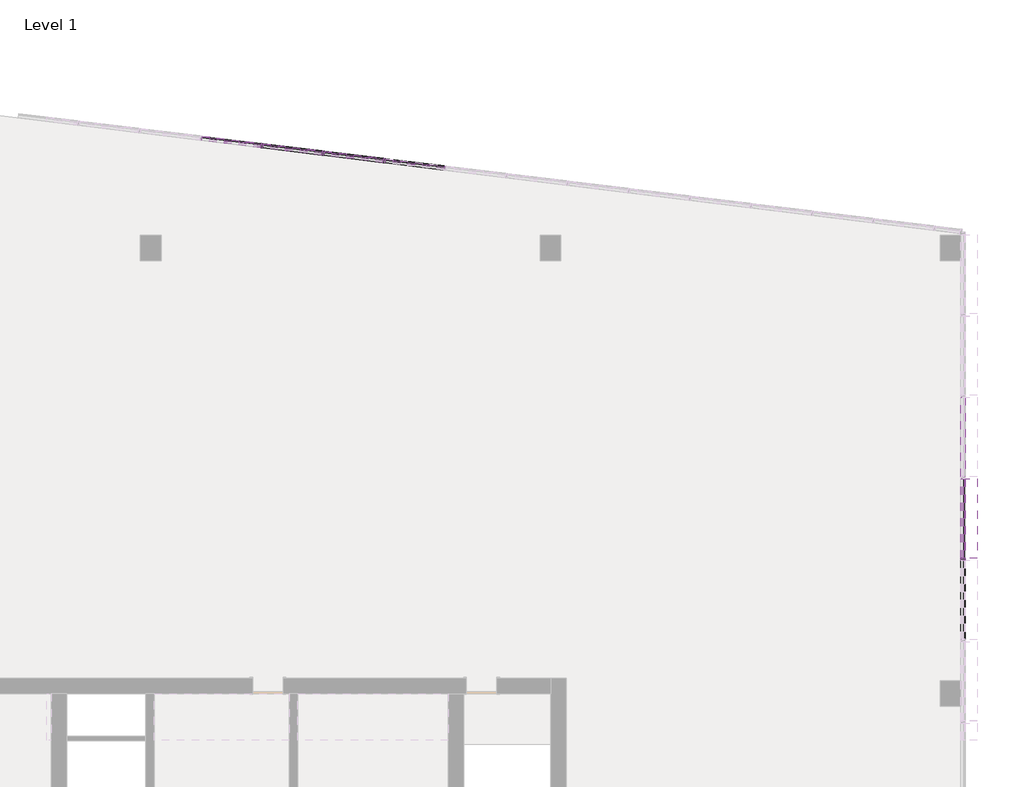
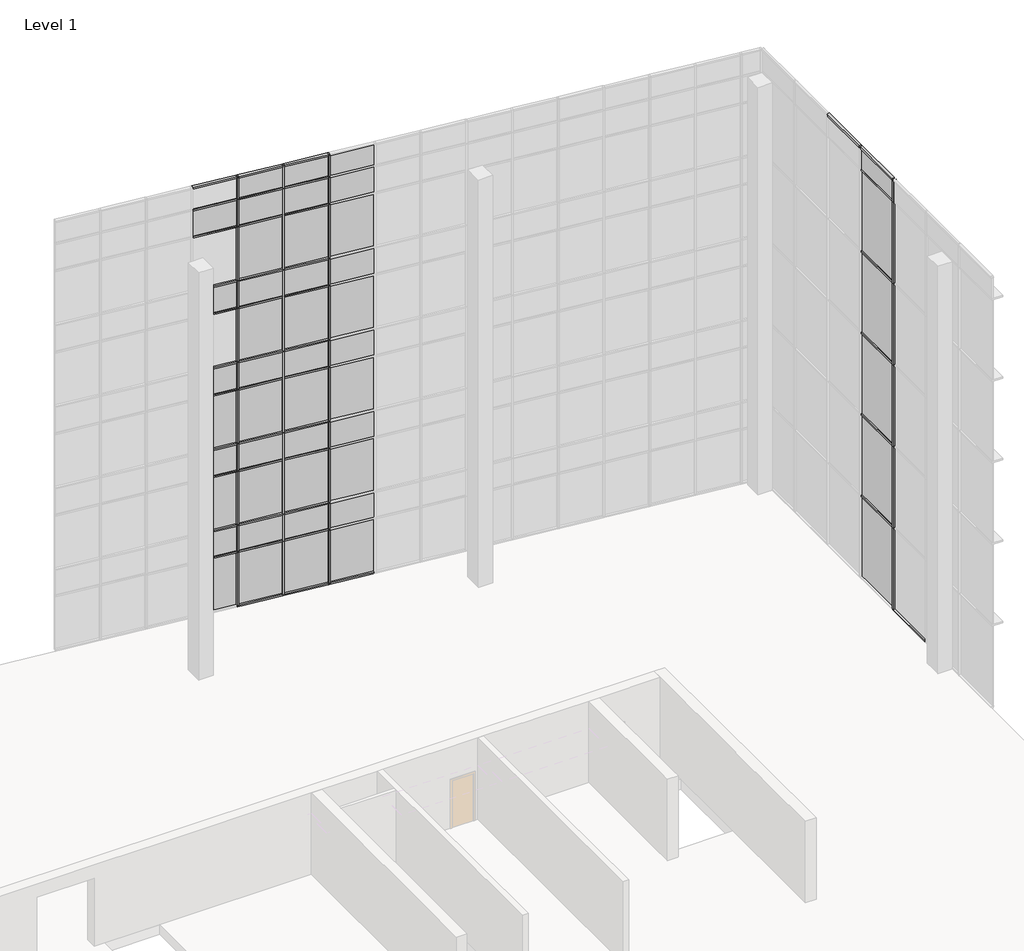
# One storey, part 19 of 23: 71 members, 47 plates.
"""IFC4 building model written with IfcOpenShell, lengths in millimetres."""

from ifc_helpers import new_model, si_unit, origin, place, context, project, spatial, transform, mapped, element, save
from components import member_148ee976, member_07e69ef0, member_2b49869a, member_f92b8aa2, member_810865a4, member_f0fea5a5, member_6d5c3e5e, member_90793d7c, member_64b167af, member_9764dd38, system_panel_glazed_14c75400, system_panel_glazed_b79bd3cf, system_panel_solid_5dfe6f83, system_panel_solid_e25e2004, system_panel_solid_b7551183, system_panel_solid_52d708f1

model = new_model("IFC4")

# Units and contexts
model_context = context("Model", 3, world=origin())
ifc_project = project(units=[si_unit("LENGTHUNIT", "METRE", prefix="MILLI")], contexts=[model_context])

# Site, building, storey
site = spatial("IfcSite", under=ifc_project)
building = spatial("IfcBuilding", under=site)
storey = spatial("IfcBuildingStorey", under=building, Name="Level 1", Elevation=0.0)

# Members
placement = place(None, origin())
member_shape = member_148ee976(model_context)
element("IfcMember", 1, ObjectType="Quad Corner Mullion : 5\" x 5\" Quad Corner", at=placement, inside=storey, context=model_context, shape_type="MappedRepresentation", body=[
    mapped(member_shape, transform((15106.8054088, 323.0400525, 19304.0), x_axis=(0.0, 0.0, 1.0), y_axis=(-1.0, 0.0, 0.0), z_axis=(0.0, -1.0, 0.0))),
])
element("IfcMember", 2, ObjectType="Quad Corner Mullion : 5\" x 5\" Quad Corner", at=placement, inside=storey, context=model_context, shape_type="MappedRepresentation", body=[
    mapped(member_shape, transform((15106.8054088, 2740.2922028, 19304.0), x_axis=(0.0, 0.0, 1.0), y_axis=(-1.0, 0.0, 0.0), z_axis=(0.0, -1.0, 0.0))),
])
element("IfcMember", 3, ObjectType="Quad Corner Mullion : 5\" x 5\" Quad Corner", at=placement, inside=storey, context=model_context, shape_type="MappedRepresentation", body=[
    mapped(member_shape, transform((15106.8054088, 259.5400525, 0.0), x_axis=(0.0, 0.0, -1.0), y_axis=(-1.0, 0.0, 0.0), z_axis=(0.0, 1.0, 0.0))),
])
member_2_shape = member_07e69ef0(model_context)
element("IfcMember", 4, ObjectType="Rectangular Mullion : 2.5\" x 18\" rectangular", at=placement, inside=storey, context=model_context, shape_type="MappedRepresentation", body=[
    mapped(member_2_shape, transform((15106.8054088, 323.0400525, 3666.6228811), x_axis=(0.0, 0.0, 1.0), y_axis=(-1.0, 0.0, 0.0), z_axis=(0.0, -1.0, 0.0))),
])
element("IfcMember", 5, ObjectType="Rectangular Mullion : 2.5\" x 18\" rectangular", at=placement, inside=storey, context=model_context, shape_type="MappedRepresentation", body=[
    mapped(member_2_shape, transform((15106.8054088, 323.0400525, 7324.2228811), x_axis=(0.0, 0.0, 1.0), y_axis=(-1.0, 0.0, 0.0), z_axis=(0.0, -1.0, 0.0))),
])
element("IfcMember", 6, ObjectType="Rectangular Mullion : 2.5\" x 18\" rectangular", at=placement, inside=storey, context=model_context, shape_type="MappedRepresentation", body=[
    mapped(member_2_shape, transform((15106.8054088, 323.0400525, 10981.8228811), x_axis=(0.0, 0.0, 1.0), y_axis=(-1.0, 0.0, 0.0), z_axis=(0.0, -1.0, 0.0))),
])
element("IfcMember", 7, ObjectType="Rectangular Mullion : 2.5\" x 18\" rectangular", at=placement, inside=storey, context=model_context, shape_type="MappedRepresentation", body=[
    mapped(member_2_shape, transform((15106.8054088, 323.0400525, 14639.4228811), x_axis=(0.0, 0.0, 1.0), y_axis=(-1.0, 0.0, 0.0), z_axis=(0.0, -1.0, 0.0))),
])
element("IfcMember", 8, ObjectType="Rectangular Mullion : 2.5\" x 18\" rectangular", at=placement, inside=storey, context=model_context, shape_type="MappedRepresentation", body=[
    mapped(member_2_shape, transform((15106.8054088, 323.0400525, 18297.0228811), x_axis=(0.0, 0.0, 1.0), y_axis=(-1.0, 0.0, 0.0), z_axis=(0.0, -1.0, 0.0))),
])
member_3_shape = member_2b49869a(model_context)
element("IfcMember", 9, ObjectType="Rectangular Mullion : 2.5\" x 5\" rectangular", at=placement, inside=storey, context=model_context, shape_type="MappedRepresentation", body=[
    mapped(member_3_shape, transform((-5700.4995571, 12571.2945117, 2438.4), x_axis=(0.9925461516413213, -0.12186934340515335, 0.0), y_axis=(-0.12186934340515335, -0.9925461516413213, 0.0), z_axis=(0.0, 0.0, -1.0))),
])
element("IfcMember", 10, ObjectType="Rectangular Mullion : 2.5\" x 5\" rectangular", at=placement, inside=storey, context=model_context, shape_type="MappedRepresentation", body=[
    mapped(member_3_shape, transform((-2070.1627529, 12125.5452013, 2438.4), x_axis=(0.9925461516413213, -0.12186934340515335, 0.0), y_axis=(-0.12186934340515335, -0.9925461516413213, 0.0), z_axis=(0.0, 0.0, -1.0))),
])
element("IfcMember", 11, ObjectType="Rectangular Mullion : 2.5\" x 5\" rectangular", at=placement, inside=storey, context=model_context, shape_type="MappedRepresentation", body=[
    mapped(member_3_shape, transform((-3885.331155, 12348.4198565, 2438.4), x_axis=(0.9925461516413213, -0.12186934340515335, 0.0), y_axis=(-0.12186934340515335, -0.9925461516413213, 0.0), z_axis=(0.0, 0.0, -1.0))),
])
member_4_shape = member_f92b8aa2(model_context)
element("IfcMember", 12, ObjectType="Rectangular Mullion : 2.5\" x 5\" rectangular", at=placement, inside=storey, context=model_context, shape_type="MappedRepresentation", body=[
    mapped(member_4_shape, transform((-5700.4995571, 12571.2945117, 18288.0), x_axis=(0.9925461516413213, -0.12186934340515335, 0.0), y_axis=(-0.12186934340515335, -0.9925461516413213, 0.0), z_axis=(0.0, 0.0, -1.0))),
])
element("IfcMember", 13, ObjectType="Rectangular Mullion : 2.5\" x 5\" rectangular", at=placement, inside=storey, context=model_context, shape_type="MappedRepresentation", body=[
    mapped(member_4_shape, transform((-2070.1627529, 12125.5452013, 18288.0), x_axis=(0.9925461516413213, -0.12186934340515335, 0.0), y_axis=(-0.12186934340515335, -0.9925461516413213, 0.0), z_axis=(0.0, 0.0, -1.0))),
])
element("IfcMember", 14, ObjectType="Rectangular Mullion : 2.5\" x 5\" rectangular", at=placement, inside=storey, context=model_context, shape_type="MappedRepresentation", body=[
    mapped(member_4_shape, transform((-3885.331155, 12348.4198565, 18288.0), x_axis=(0.9925461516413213, -0.12186934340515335, 0.0), y_axis=(-0.12186934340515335, -0.9925461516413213, 0.0), z_axis=(0.0, 0.0, -1.0))),
])
member_5_shape = member_810865a4(model_context)
element("IfcMember", 15, ObjectType="Rectangular Mullion : 2.5\" x 5\" rectangular", at=placement, inside=storey, context=model_context, shape_type="MappedRepresentation", body=[
    mapped(member_5_shape, transform((-3885.331155, 12348.4198565, 7315.2), x_axis=(0.9925461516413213, -0.12186934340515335, 0.0), y_axis=(-0.12186934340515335, -0.9925461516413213, 0.0), z_axis=(0.0, 0.0, -1.0))),
])
element("IfcMember", 16, ObjectType="Rectangular Mullion : 2.5\" x 5\" rectangular", at=placement, inside=storey, context=model_context, shape_type="MappedRepresentation", body=[
    mapped(member_5_shape, transform((-3885.331155, 12348.4198565, 3657.6), x_axis=(0.9925461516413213, -0.12186934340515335, 0.0), y_axis=(-0.12186934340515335, -0.9925461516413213, 0.0), z_axis=(0.0, 0.0, -1.0))),
])
element("IfcMember", 17, ObjectType="Rectangular Mullion : 2.5\" x 5\" rectangular", at=placement, inside=storey, context=model_context, shape_type="MappedRepresentation", body=[
    mapped(member_5_shape, transform((-5700.4995571, 12571.2945117, 14630.4), x_axis=(0.9925461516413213, -0.12186934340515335, 0.0), y_axis=(-0.12186934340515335, -0.9925461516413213, 0.0), z_axis=(0.0, 0.0, -1.0))),
])
element("IfcMember", 18, ObjectType="Rectangular Mullion : 2.5\" x 5\" rectangular", at=placement, inside=storey, context=model_context, shape_type="MappedRepresentation", body=[
    mapped(member_5_shape, transform((-5700.4995571, 12571.2945117, 10972.8), x_axis=(0.9925461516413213, -0.12186934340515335, 0.0), y_axis=(-0.12186934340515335, -0.9925461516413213, 0.0), z_axis=(0.0, 0.0, -1.0))),
])
element("IfcMember", 19, ObjectType="Rectangular Mullion : 2.5\" x 5\" rectangular", at=placement, inside=storey, context=model_context, shape_type="MappedRepresentation", body=[
    mapped(member_5_shape, transform((-5700.4995571, 12571.2945117, 7315.2), x_axis=(0.9925461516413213, -0.12186934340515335, 0.0), y_axis=(-0.12186934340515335, -0.9925461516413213, 0.0), z_axis=(0.0, 0.0, -1.0))),
])
element("IfcMember", 20, ObjectType="Rectangular Mullion : 2.5\" x 5\" rectangular", at=placement, inside=storey, context=model_context, shape_type="MappedRepresentation", body=[
    mapped(member_5_shape, transform((-5700.4995571, 12571.2945117, 3657.6), x_axis=(0.9925461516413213, -0.12186934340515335, 0.0), y_axis=(-0.12186934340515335, -0.9925461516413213, 0.0), z_axis=(0.0, 0.0, -1.0))),
])
element("IfcMember", 21, ObjectType="Rectangular Mullion : 2.5\" x 5\" rectangular", at=placement, inside=storey, context=model_context, shape_type="MappedRepresentation", body=[
    mapped(member_5_shape, transform((-2070.1627529, 12125.5452013, 14630.4), x_axis=(0.9925461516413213, -0.12186934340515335, 0.0), y_axis=(-0.12186934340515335, -0.9925461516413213, 0.0), z_axis=(0.0, 0.0, -1.0))),
])
element("IfcMember", 22, ObjectType="Rectangular Mullion : 2.5\" x 5\" rectangular", at=placement, inside=storey, context=model_context, shape_type="MappedRepresentation", body=[
    mapped(member_5_shape, transform((-2070.1627529, 12125.5452013, 10972.8), x_axis=(0.9925461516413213, -0.12186934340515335, 0.0), y_axis=(-0.12186934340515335, -0.9925461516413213, 0.0), z_axis=(0.0, 0.0, -1.0))),
])
element("IfcMember", 23, ObjectType="Rectangular Mullion : 2.5\" x 5\" rectangular", at=placement, inside=storey, context=model_context, shape_type="MappedRepresentation", body=[
    mapped(member_5_shape, transform((-2070.1627529, 12125.5452013, 7315.2), x_axis=(0.9925461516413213, -0.12186934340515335, 0.0), y_axis=(-0.12186934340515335, -0.9925461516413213, 0.0), z_axis=(0.0, 0.0, -1.0))),
])
element("IfcMember", 24, ObjectType="Rectangular Mullion : 2.5\" x 5\" rectangular", at=placement, inside=storey, context=model_context, shape_type="MappedRepresentation", body=[
    mapped(member_5_shape, transform((-2070.1627529, 12125.5452013, 3657.6), x_axis=(0.9925461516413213, -0.12186934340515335, 0.0), y_axis=(-0.12186934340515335, -0.9925461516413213, 0.0), z_axis=(0.0, 0.0, -1.0))),
])
element("IfcMember", 25, ObjectType="Rectangular Mullion : 2.5\" x 5\" rectangular", at=placement, inside=storey, context=model_context, shape_type="MappedRepresentation", body=[
    mapped(member_5_shape, transform((-3885.331155, 12348.4198565, 14630.4), x_axis=(0.9925461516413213, -0.12186934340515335, 0.0), y_axis=(-0.12186934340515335, -0.9925461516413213, 0.0), z_axis=(0.0, 0.0, -1.0))),
])
element("IfcMember", 26, ObjectType="Rectangular Mullion : 2.5\" x 5\" rectangular", at=placement, inside=storey, context=model_context, shape_type="MappedRepresentation", body=[
    mapped(member_5_shape, transform((-3885.331155, 12348.4198565, 10972.8), x_axis=(0.9925461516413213, -0.12186934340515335, 0.0), y_axis=(-0.12186934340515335, -0.9925461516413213, 0.0), z_axis=(0.0, 0.0, -1.0))),
])
element("IfcMember", 27, ObjectType="Rectangular Mullion : 2.5\" x 5\" rectangular", at=placement, inside=storey, context=model_context, shape_type="MappedRepresentation", body=[
    mapped(member_5_shape, transform((15106.8054088, 291.2900525, 3666.6228811), x_axis=(0.0, -1.0, 0.0), y_axis=(-1.0, 0.0, 0.0), z_axis=(0.0, 0.0, -1.0))),
])
element("IfcMember", 28, ObjectType="Rectangular Mullion : 2.5\" x 5\" rectangular", at=placement, inside=storey, context=model_context, shape_type="MappedRepresentation", body=[
    mapped(member_5_shape, transform((15106.8054088, 291.2900525, 7324.2228811), x_axis=(0.0, -1.0, 0.0), y_axis=(-1.0, 0.0, 0.0), z_axis=(0.0, 0.0, -1.0))),
])
element("IfcMember", 29, ObjectType="Rectangular Mullion : 2.5\" x 5\" rectangular", at=placement, inside=storey, context=model_context, shape_type="MappedRepresentation", body=[
    mapped(member_5_shape, transform((15106.8054088, 291.2900525, 10981.8228811), x_axis=(0.0, -1.0, 0.0), y_axis=(-1.0, 0.0, 0.0), z_axis=(0.0, 0.0, -1.0))),
])
element("IfcMember", 30, ObjectType="Rectangular Mullion : 2.5\" x 5\" rectangular", at=placement, inside=storey, context=model_context, shape_type="MappedRepresentation", body=[
    mapped(member_5_shape, transform((15106.8054088, 291.2900525, 14639.4228811), x_axis=(0.0, -1.0, 0.0), y_axis=(-1.0, 0.0, 0.0), z_axis=(0.0, 0.0, -1.0))),
])
member_6_shape = member_f0fea5a5(model_context)
element("IfcMember", 31, ObjectType="Rectangular Mullion : 2.5\" x 5\" rectangular", at=placement, inside=storey, context=model_context, shape_type="MappedRepresentation", body=[
    mapped(member_6_shape, transform((-3885.331155, 12348.4198565, 0.0), x_axis=(0.9925461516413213, -0.12186934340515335, 0.0), y_axis=(-0.12186934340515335, -0.9925461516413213, 0.0), z_axis=(0.0, 0.0, -1.0))),
])
element("IfcMember", 32, ObjectType="Rectangular Mullion : 2.5\" x 5\" rectangular", at=placement, inside=storey, context=model_context, shape_type="MappedRepresentation", body=[
    mapped(member_6_shape, transform((-5700.4995571, 12571.2945117, 0.0), x_axis=(0.9925461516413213, -0.12186934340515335, 0.0), y_axis=(-0.12186934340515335, -0.9925461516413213, 0.0), z_axis=(0.0, 0.0, -1.0))),
])
element("IfcMember", 33, ObjectType="Rectangular Mullion : 2.5\" x 5\" rectangular", at=placement, inside=storey, context=model_context, shape_type="MappedRepresentation", body=[
    mapped(member_6_shape, transform((-2070.1627529, 12125.5452013, 0.0), x_axis=(0.9925461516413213, -0.12186934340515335, 0.0), y_axis=(-0.12186934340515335, -0.9925461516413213, 0.0), z_axis=(0.0, 0.0, -1.0))),
])
member_7_shape = member_6d5c3e5e(model_context)
element("IfcMember", 34, ObjectType="Rectangular Mullion : 2.5\" x 5\" rectangular", at=placement, inside=storey, context=model_context, shape_type="MappedRepresentation", body=[
    mapped(member_7_shape, transform((-2101.6760932, 12129.414553, 19304.0), x_axis=(0.0, 0.0, 1.0), y_axis=(-0.12186934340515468, -0.9925461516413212, 0.0), z_axis=(0.9925461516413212, -0.12186934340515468, 0.0))),
])
element("IfcMember", 35, ObjectType="Rectangular Mullion : 2.5\" x 5\" rectangular", at=placement, inside=storey, context=model_context, shape_type="MappedRepresentation", body=[
    mapped(member_7_shape, transform((-3916.8444953, 12352.2892082, 19304.0), x_axis=(0.0, 0.0, 1.0), y_axis=(-0.12186934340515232, -0.9925461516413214, 0.0), z_axis=(0.9925461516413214, -0.12186934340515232, 0.0))),
])
element("IfcMember", 36, ObjectType="Rectangular Mullion : 2.5\" x 5\" rectangular", at=placement, inside=storey, context=model_context, shape_type="MappedRepresentation", body=[
    mapped(member_7_shape, transform((-5732.0128974, 12575.1638634, 19304.0), x_axis=(0.0, 0.0, 1.0), y_axis=(-0.12186934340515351, -0.9925461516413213, 0.0), z_axis=(0.9925461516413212, -0.1218693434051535, 0.0))),
])
member_8_shape = member_90793d7c(model_context)
element("IfcMember", 37, ObjectType="Rectangular Mullion : 2.5\" x 5\" rectangular", at=placement, inside=storey, context=model_context, shape_type="MappedRepresentation", body=[
    mapped(member_8_shape, transform((15106.8054088, 291.2900525, 0.0), x_axis=(0.0, -1.0, 0.0), y_axis=(-1.0, 0.0, 0.0), z_axis=(0.0, 0.0, -1.0))),
])
member_9_shape = member_64b167af(model_context)
element("IfcMember", 38, ObjectType="Rectangular Mullion : 2.5\" x 5\" rectangular", at=placement, inside=storey, context=model_context, shape_type="MappedRepresentation", body=[
    mapped(member_9_shape, transform((15106.8054088, 291.2900525, 18297.0228811), x_axis=(0.0, -1.0, 0.0), y_axis=(-1.0, 0.0, 0.0), z_axis=(0.0, 0.0, -1.0))),
])
member_10_shape = member_9764dd38(model_context)
element("IfcMember", 39, ObjectType="Rectangular Mullion : 2.5\" x 5\" rectangular", at=placement, inside=storey, context=model_context, shape_type="MappedRepresentation", body=[
    mapped(member_10_shape, transform((-2101.6760932, 12129.414553, 17068.8), x_axis=(0.0, 0.0, 1.0), y_axis=(-0.12186934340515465, -0.9925461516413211, 0.0), z_axis=(0.9925461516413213, -0.12186934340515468, 0.0))),
])
element("IfcMember", 40, ObjectType="Rectangular Mullion : 2.5\" x 5\" rectangular", at=placement, inside=storey, context=model_context, shape_type="MappedRepresentation", body=[
    mapped(member_10_shape, transform((-3916.8444953, 12352.2892082, 17068.8), x_axis=(0.0, 0.0, 1.0), y_axis=(-0.1218693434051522, -0.9925461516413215, 0.0), z_axis=(0.9925461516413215, -0.1218693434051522, 0.0))),
])
element("IfcMember", 41, ObjectType="Rectangular Mullion : 2.5\" x 5\" rectangular", at=placement, inside=storey, context=model_context, shape_type="MappedRepresentation", body=[
    mapped(member_10_shape, transform((-5732.0128974, 12575.1638634, 17068.8), x_axis=(0.0, 0.0, 1.0), y_axis=(-0.12186934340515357, -0.9925461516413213, 0.0), z_axis=(0.9925461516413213, -0.12186934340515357, 0.0))),
])
element("IfcMember", 42, ObjectType="Rectangular Mullion : 2.5\" x 5\" rectangular", at=placement, inside=storey, context=model_context, shape_type="MappedRepresentation", body=[
    mapped(member_10_shape, transform((-2101.6760932, 12129.414553, 13411.2), x_axis=(0.0, 0.0, 1.0), y_axis=(-0.12186934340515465, -0.9925461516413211, 0.0), z_axis=(0.9925461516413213, -0.12186934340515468, 0.0))),
])
element("IfcMember", 43, ObjectType="Rectangular Mullion : 2.5\" x 5\" rectangular", at=placement, inside=storey, context=model_context, shape_type="MappedRepresentation", body=[
    mapped(member_10_shape, transform((-3916.8444953, 12352.2892082, 13411.2), x_axis=(0.0, 0.0, 1.0), y_axis=(-0.1218693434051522, -0.9925461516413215, 0.0), z_axis=(0.9925461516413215, -0.1218693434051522, 0.0))),
])
element("IfcMember", 44, ObjectType="Rectangular Mullion : 2.5\" x 5\" rectangular", at=placement, inside=storey, context=model_context, shape_type="MappedRepresentation", body=[
    mapped(member_10_shape, transform((-5732.0128974, 12575.1638634, 13411.2), x_axis=(0.0, 0.0, 1.0), y_axis=(-0.12186934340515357, -0.9925461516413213, 0.0), z_axis=(0.9925461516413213, -0.12186934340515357, 0.0))),
])
element("IfcMember", 45, ObjectType="Rectangular Mullion : 2.5\" x 5\" rectangular", at=placement, inside=storey, context=model_context, shape_type="MappedRepresentation", body=[
    mapped(member_10_shape, transform((-2101.6760932, 12129.414553, 9753.6), x_axis=(0.0, 0.0, 1.0), y_axis=(-0.12186934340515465, -0.9925461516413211, 0.0), z_axis=(0.9925461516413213, -0.12186934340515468, 0.0))),
])
element("IfcMember", 46, ObjectType="Rectangular Mullion : 2.5\" x 5\" rectangular", at=placement, inside=storey, context=model_context, shape_type="MappedRepresentation", body=[
    mapped(member_10_shape, transform((-3916.8444953, 12352.2892082, 9753.6), x_axis=(0.0, 0.0, 1.0), y_axis=(-0.12186934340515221, -0.9925461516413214, 0.0), z_axis=(0.9925461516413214, -0.12186934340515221, 0.0))),
])
element("IfcMember", 47, ObjectType="Rectangular Mullion : 2.5\" x 5\" rectangular", at=placement, inside=storey, context=model_context, shape_type="MappedRepresentation", body=[
    mapped(member_10_shape, transform((-5732.0128974, 12575.1638634, 9753.6), x_axis=(0.0, 0.0, 1.0), y_axis=(-0.12186934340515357, -0.9925461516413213, 0.0), z_axis=(0.9925461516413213, -0.12186934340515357, 0.0))),
])
element("IfcMember", 48, ObjectType="Rectangular Mullion : 2.5\" x 5\" rectangular", at=placement, inside=storey, context=model_context, shape_type="MappedRepresentation", body=[
    mapped(member_10_shape, transform((-2101.6760932, 12129.414553, 6096.0), x_axis=(0.0, 0.0, 1.0), y_axis=(-0.12186934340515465, -0.9925461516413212, 0.0), z_axis=(0.9925461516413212, -0.12186934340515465, 0.0))),
])
element("IfcMember", 49, ObjectType="Rectangular Mullion : 2.5\" x 5\" rectangular", at=placement, inside=storey, context=model_context, shape_type="MappedRepresentation", body=[
    mapped(member_10_shape, transform((-3916.8444953, 12352.2892082, 6096.0), x_axis=(0.0, 0.0, 1.0), y_axis=(-0.12186934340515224, -0.9925461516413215, 0.0), z_axis=(0.9925461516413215, -0.12186934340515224, 0.0))),
])
element("IfcMember", 50, ObjectType="Rectangular Mullion : 2.5\" x 5\" rectangular", at=placement, inside=storey, context=model_context, shape_type="MappedRepresentation", body=[
    mapped(member_10_shape, transform((-5732.0128974, 12575.1638634, 6096.0), x_axis=(0.0, 0.0, 1.0), y_axis=(-0.12186934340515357, -0.9925461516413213, 0.0), z_axis=(0.9925461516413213, -0.12186934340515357, 0.0))),
])
element("IfcMember", 51, ObjectType="Rectangular Mullion : 2.5\" x 5\" rectangular", at=placement, inside=storey, context=model_context, shape_type="MappedRepresentation", body=[
    mapped(member_10_shape, transform((-2101.6760932, 12129.414553, 2470.15), x_axis=(0.0, 0.0, 1.0), y_axis=(-0.12186934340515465, -0.9925461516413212, 0.0), z_axis=(0.9925461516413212, -0.12186934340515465, 0.0))),
])
element("IfcMember", 52, ObjectType="Rectangular Mullion : 2.5\" x 5\" rectangular", at=placement, inside=storey, context=model_context, shape_type="MappedRepresentation", body=[
    mapped(member_10_shape, transform((-3916.8444953, 12352.2892082, 2470.15), x_axis=(0.0, 0.0, 1.0), y_axis=(-0.12186934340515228, -0.9925461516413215, 0.0), z_axis=(0.9925461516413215, -0.12186934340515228, 0.0))),
])
element("IfcMember", 53, ObjectType="Rectangular Mullion : 2.5\" x 5\" rectangular", at=placement, inside=storey, context=model_context, shape_type="MappedRepresentation", body=[
    mapped(member_10_shape, transform((-5732.0128974, 12575.1638634, 2470.15), x_axis=(0.0, 0.0, 1.0), y_axis=(-0.12186934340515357, -0.9925461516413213, 0.0), z_axis=(0.9925461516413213, -0.12186934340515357, 0.0))),
])
element("IfcMember", 54, ObjectType="Rectangular Mullion : 2.5\" x 5\" rectangular", at=placement, inside=storey, context=model_context, shape_type="MappedRepresentation", body=[
    mapped(member_7_shape, transform((-2038.6494126, 12121.6758497, 0.0), x_axis=(0.0, 0.0, -1.0), y_axis=(-0.12186934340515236, -0.9925461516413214, 0.0), z_axis=(-0.9925461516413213, 0.12186934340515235, 0.0))),
])
element("IfcMember", 55, ObjectType="Rectangular Mullion : 2.5\" x 5\" rectangular", at=placement, inside=storey, context=model_context, shape_type="MappedRepresentation", body=[
    mapped(member_7_shape, transform((-3853.8178147, 12344.5505049, 0.0), x_axis=(0.0, 0.0, -1.0), y_axis=(-0.12186934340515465, -0.9925461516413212, 0.0), z_axis=(-0.9925461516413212, 0.12186934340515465, 0.0))),
])
element("IfcMember", 56, ObjectType="Rectangular Mullion : 2.5\" x 5\" rectangular", at=placement, inside=storey, context=model_context, shape_type="MappedRepresentation", body=[
    mapped(member_7_shape, transform((-5668.9862168, 12567.4251601, 0.0), x_axis=(0.0, 0.0, -1.0), y_axis=(-0.12186934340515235, -0.9925461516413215, 0.0), z_axis=(-0.9925461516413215, 0.12186934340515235, 0.0))),
])
element("IfcMember", 57, ObjectType="Rectangular Mullion : 2.5\" x 5\" rectangular", at=placement, inside=storey, context=model_context, shape_type="MappedRepresentation", body=[
    mapped(member_10_shape, transform((-2101.6760932, 12129.414553, 3657.6), x_axis=(0.0, 0.0, 1.0), y_axis=(-0.12186934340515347, -0.9925461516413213, 0.0), z_axis=(0.9925461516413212, -0.12186934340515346, 0.0))),
])
element("IfcMember", 58, ObjectType="Rectangular Mullion : 2.5\" x 5\" rectangular", at=placement, inside=storey, context=model_context, shape_type="MappedRepresentation", body=[
    mapped(member_10_shape, transform((-3916.8444953, 12352.2892082, 3657.6), x_axis=(0.0, 0.0, 1.0), y_axis=(-0.12186934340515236, -0.9925461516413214, 0.0), z_axis=(0.9925461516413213, -0.12186934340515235, 0.0))),
])
element("IfcMember", 59, ObjectType="Rectangular Mullion : 2.5\" x 5\" rectangular", at=placement, inside=storey, context=model_context, shape_type="MappedRepresentation", body=[
    mapped(member_10_shape, transform((-5732.0128974, 12575.1638634, 3657.6), x_axis=(0.0, 0.0, 1.0), y_axis=(-0.12186934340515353, -0.9925461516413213, 0.0), z_axis=(0.9925461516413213, -0.12186934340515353, 0.0))),
])
element("IfcMember", 60, ObjectType="Rectangular Mullion : 2.5\" x 5\" rectangular", at=placement, inside=storey, context=model_context, shape_type="MappedRepresentation", body=[
    mapped(member_10_shape, transform((-2101.6760932, 12129.414553, 10972.8), x_axis=(0.0, 0.0, 1.0), y_axis=(-0.12186934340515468, -0.9925461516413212, 0.0), z_axis=(0.9925461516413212, -0.12186934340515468, 0.0))),
])
element("IfcMember", 61, ObjectType="Rectangular Mullion : 2.5\" x 5\" rectangular", at=placement, inside=storey, context=model_context, shape_type="MappedRepresentation", body=[
    mapped(member_10_shape, transform((-3916.8444953, 12352.2892082, 10972.8), x_axis=(0.0, 0.0, 1.0), y_axis=(-0.12186934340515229, -0.9925461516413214, 0.0), z_axis=(0.9925461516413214, -0.12186934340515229, 0.0))),
])
element("IfcMember", 62, ObjectType="Rectangular Mullion : 2.5\" x 5\" rectangular", at=placement, inside=storey, context=model_context, shape_type="MappedRepresentation", body=[
    mapped(member_10_shape, transform((-5732.0128974, 12575.1638634, 10972.8), x_axis=(0.0, 0.0, 1.0), y_axis=(-0.12186934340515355, -0.9925461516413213, 0.0), z_axis=(0.9925461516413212, -0.12186934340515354, 0.0))),
])
element("IfcMember", 63, ObjectType="Rectangular Mullion : 2.5\" x 5\" rectangular", at=placement, inside=storey, context=model_context, shape_type="MappedRepresentation", body=[
    mapped(member_10_shape, transform((-2101.6760932, 12129.414553, 14630.4), x_axis=(0.0, 0.0, 1.0), y_axis=(-0.12186934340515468, -0.9925461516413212, 0.0), z_axis=(0.9925461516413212, -0.12186934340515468, 0.0))),
])
element("IfcMember", 64, ObjectType="Rectangular Mullion : 2.5\" x 5\" rectangular", at=placement, inside=storey, context=model_context, shape_type="MappedRepresentation", body=[
    mapped(member_10_shape, transform((-3916.8444953, 12352.2892082, 14630.4), x_axis=(0.0, 0.0, 1.0), y_axis=(-0.12186934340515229, -0.9925461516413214, 0.0), z_axis=(0.9925461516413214, -0.12186934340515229, 0.0))),
])
element("IfcMember", 65, ObjectType="Rectangular Mullion : 2.5\" x 5\" rectangular", at=placement, inside=storey, context=model_context, shape_type="MappedRepresentation", body=[
    mapped(member_10_shape, transform((-5732.0128974, 12575.1638634, 14630.4), x_axis=(0.0, 0.0, 1.0), y_axis=(-0.12186934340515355, -0.9925461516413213, 0.0), z_axis=(0.9925461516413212, -0.12186934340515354, 0.0))),
])
element("IfcMember", 66, ObjectType="Rectangular Mullion : 2.5\" x 5\" rectangular", at=placement, inside=storey, context=model_context, shape_type="MappedRepresentation", body=[
    mapped(member_10_shape, transform((-2101.6760932, 12129.414553, 7315.2), x_axis=(0.0, 0.0, 1.0), y_axis=(-0.12186934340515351, -0.9925461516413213, 0.0), z_axis=(0.9925461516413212, -0.1218693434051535, 0.0))),
])
element("IfcMember", 67, ObjectType="Rectangular Mullion : 2.5\" x 5\" rectangular", at=placement, inside=storey, context=model_context, shape_type="MappedRepresentation", body=[
    mapped(member_10_shape, transform((-3916.8444953, 12352.2892082, 7315.2), x_axis=(0.0, 0.0, 1.0), y_axis=(-0.12186934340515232, -0.9925461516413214, 0.0), z_axis=(0.9925461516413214, -0.12186934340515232, 0.0))),
])
element("IfcMember", 68, ObjectType="Rectangular Mullion : 2.5\" x 5\" rectangular", at=placement, inside=storey, context=model_context, shape_type="MappedRepresentation", body=[
    mapped(member_10_shape, transform((-5732.0128974, 12575.1638634, 7315.2), x_axis=(0.0, 0.0, 1.0), y_axis=(-0.12186934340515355, -0.9925461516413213, 0.0), z_axis=(0.9925461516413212, -0.12186934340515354, 0.0))),
])
element("IfcMember", 69, ObjectType="Rectangular Mullion : 2.5\" x 5\" rectangular", at=placement, inside=storey, context=model_context, shape_type="MappedRepresentation", body=[
    mapped(member_10_shape, transform((-2101.6760932, 12129.414553, 18288.0), x_axis=(0.0, 0.0, 1.0), y_axis=(-0.12186934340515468, -0.9925461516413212, 0.0), z_axis=(0.9925461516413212, -0.12186934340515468, 0.0))),
])
element("IfcMember", 70, ObjectType="Rectangular Mullion : 2.5\" x 5\" rectangular", at=placement, inside=storey, context=model_context, shape_type="MappedRepresentation", body=[
    mapped(member_10_shape, transform((-3916.8444953, 12352.2892082, 18288.0), x_axis=(0.0, 0.0, 1.0), y_axis=(-0.12186934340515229, -0.9925461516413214, 0.0), z_axis=(0.9925461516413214, -0.12186934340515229, 0.0))),
])
element("IfcMember", 71, ObjectType="Rectangular Mullion : 2.5\" x 5\" rectangular", at=placement, inside=storey, context=model_context, shape_type="MappedRepresentation", body=[
    mapped(member_10_shape, transform((-5732.0128974, 12575.1638634, 18288.0), x_axis=(0.0, 0.0, 1.0), y_axis=(-0.12186934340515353, -0.9925461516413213, 0.0), z_axis=(0.9925461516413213, -0.12186934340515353, 0.0))),
])

# Plates
system_panel_glazed_shape = system_panel_glazed_14c75400(model_context)
element("IfcPlate", 72, ObjectType="System Panel : Glazed", at=placement, inside=storey, context=model_context, shape_type="MappedRepresentation", body=[
    mapped(system_panel_glazed_shape, transform((-1162.5785518, 12014.1078737, 14662.15), x_axis=(0.9925461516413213, -0.12186934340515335, 0.0), y_axis=(0.12186934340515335, 0.9925461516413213, 0.0), z_axis=(0.0, 0.0, 1.0))),
])
element("IfcPlate", 73, ObjectType="System Panel : Glazed", at=placement, inside=storey, context=model_context, shape_type="MappedRepresentation", body=[
    mapped(system_panel_glazed_shape, transform((-2977.7469539, 12236.9825289, 14662.15), x_axis=(0.9925461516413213, -0.12186934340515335, 0.0), y_axis=(0.12186934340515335, 0.9925461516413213, 0.0), z_axis=(0.0, 0.0, 1.0))),
])
element("IfcPlate", 74, ObjectType="System Panel : Glazed", at=placement, inside=storey, context=model_context, shape_type="MappedRepresentation", body=[
    mapped(system_panel_glazed_shape, transform((-4792.9153561, 12459.8571841, 14662.15), x_axis=(0.9925461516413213, -0.12186934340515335, 0.0), y_axis=(0.12186934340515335, 0.9925461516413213, 0.0), z_axis=(0.0, 0.0, 1.0))),
])
element("IfcPlate", 75, ObjectType="System Panel : Glazed", at=placement, inside=storey, context=model_context, shape_type="MappedRepresentation", body=[
    mapped(system_panel_glazed_shape, transform((-1162.5785518, 12014.1078737, 11004.55), x_axis=(0.9925461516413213, -0.12186934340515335, 0.0), y_axis=(0.12186934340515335, 0.9925461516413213, 0.0), z_axis=(0.0, 0.0, 1.0))),
])
element("IfcPlate", 76, ObjectType="System Panel : Glazed", at=placement, inside=storey, context=model_context, shape_type="MappedRepresentation", body=[
    mapped(system_panel_glazed_shape, transform((-2977.7469539, 12236.9825289, 11004.55), x_axis=(0.9925461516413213, -0.12186934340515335, 0.0), y_axis=(0.12186934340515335, 0.9925461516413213, 0.0), z_axis=(0.0, 0.0, 1.0))),
])
element("IfcPlate", 77, ObjectType="System Panel : Glazed", at=placement, inside=storey, context=model_context, shape_type="MappedRepresentation", body=[
    mapped(system_panel_glazed_shape, transform((-4792.9153561, 12459.8571841, 11004.55), x_axis=(0.9925461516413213, -0.12186934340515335, 0.0), y_axis=(0.12186934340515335, 0.9925461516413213, 0.0), z_axis=(0.0, 0.0, 1.0))),
])
element("IfcPlate", 78, ObjectType="System Panel : Glazed", at=placement, inside=storey, context=model_context, shape_type="MappedRepresentation", body=[
    mapped(system_panel_glazed_shape, transform((-1162.5785518, 12014.1078737, 7346.95), x_axis=(0.9925461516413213, -0.12186934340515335, 0.0), y_axis=(0.12186934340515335, 0.9925461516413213, 0.0), z_axis=(0.0, 0.0, 1.0))),
])
element("IfcPlate", 79, ObjectType="System Panel : Glazed", at=placement, inside=storey, context=model_context, shape_type="MappedRepresentation", body=[
    mapped(system_panel_glazed_shape, transform((-2977.7469539, 12236.9825289, 7346.95), x_axis=(0.9925461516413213, -0.12186934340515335, 0.0), y_axis=(0.12186934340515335, 0.9925461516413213, 0.0), z_axis=(0.0, 0.0, 1.0))),
])
element("IfcPlate", 80, ObjectType="System Panel : Glazed", at=placement, inside=storey, context=model_context, shape_type="MappedRepresentation", body=[
    mapped(system_panel_glazed_shape, transform((-4792.9153561, 12459.8571841, 7346.95), x_axis=(0.9925461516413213, -0.12186934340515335, 0.0), y_axis=(0.12186934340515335, 0.9925461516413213, 0.0), z_axis=(0.0, 0.0, 1.0))),
])
element("IfcPlate", 81, ObjectType="System Panel : Glazed", at=placement, inside=storey, context=model_context, shape_type="MappedRepresentation", body=[
    mapped(system_panel_glazed_shape, transform((-6608.0837582, 12682.7318394, 7346.95), x_axis=(0.9925461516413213, -0.12186934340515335, 0.0), y_axis=(0.12186934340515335, 0.9925461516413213, 0.0), z_axis=(0.0, 0.0, 1.0))),
])
element("IfcPlate", 82, ObjectType="System Panel : Glazed", at=placement, inside=storey, context=model_context, shape_type="MappedRepresentation", body=[
    mapped(system_panel_glazed_shape, transform((-1162.5785518, 12014.1078737, 3689.35), x_axis=(0.9925461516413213, -0.12186934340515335, 0.0), y_axis=(0.12186934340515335, 0.9925461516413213, 0.0), z_axis=(0.0, 0.0, 1.0))),
])
element("IfcPlate", 83, ObjectType="System Panel : Glazed", at=placement, inside=storey, context=model_context, shape_type="MappedRepresentation", body=[
    mapped(system_panel_glazed_shape, transform((-2977.7469539, 12236.9825289, 3689.35), x_axis=(0.9925461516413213, -0.12186934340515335, 0.0), y_axis=(0.12186934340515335, 0.9925461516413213, 0.0), z_axis=(0.0, 0.0, 1.0))),
])
element("IfcPlate", 84, ObjectType="System Panel : Glazed", at=placement, inside=storey, context=model_context, shape_type="MappedRepresentation", body=[
    mapped(system_panel_glazed_shape, transform((-4792.9153561, 12459.8571841, 3689.35), x_axis=(0.9925461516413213, -0.12186934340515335, 0.0), y_axis=(0.12186934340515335, 0.9925461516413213, 0.0), z_axis=(0.0, 0.0, 1.0))),
])
element("IfcPlate", 85, ObjectType="System Panel : Glazed", at=placement, inside=storey, context=model_context, shape_type="MappedRepresentation", body=[
    mapped(system_panel_glazed_shape, transform((-6608.0837582, 12682.7318394, 3689.35), x_axis=(0.9925461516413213, -0.12186934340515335, 0.0), y_axis=(0.12186934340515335, 0.9925461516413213, 0.0), z_axis=(0.0, 0.0, 1.0))),
])
element("IfcPlate", 86, ObjectType="System Panel : Glazed", at=placement, inside=storey, context=model_context, shape_type="MappedRepresentation", body=[
    mapped(system_panel_glazed_shape, transform((-1162.5785518, 12014.1078737, 63.5), x_axis=(0.9925461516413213, -0.12186934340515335, 0.0), y_axis=(0.12186934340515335, 0.9925461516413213, 0.0), z_axis=(0.0, 0.0, 1.0))),
])
element("IfcPlate", 87, ObjectType="System Panel : Glazed", at=placement, inside=storey, context=model_context, shape_type="MappedRepresentation", body=[
    mapped(system_panel_glazed_shape, transform((-2977.7469539, 12236.9825289, 63.5), x_axis=(0.9925461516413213, -0.12186934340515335, 0.0), y_axis=(0.12186934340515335, 0.9925461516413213, 0.0), z_axis=(0.0, 0.0, 1.0))),
])
element("IfcPlate", 88, ObjectType="System Panel : Glazed", at=placement, inside=storey, context=model_context, shape_type="MappedRepresentation", body=[
    mapped(system_panel_glazed_shape, transform((-4792.9153561, 12459.8571841, 63.5), x_axis=(0.9925461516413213, -0.12186934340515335, 0.0), y_axis=(0.12186934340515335, 0.9925461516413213, 0.0), z_axis=(0.0, 0.0, 1.0))),
])
element("IfcPlate", 89, ObjectType="System Panel : Glazed", at=placement, inside=storey, context=model_context, shape_type="MappedRepresentation", body=[
    mapped(system_panel_glazed_shape, transform((-6608.0837582, 12682.7318394, 63.5), x_axis=(0.9925461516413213, -0.12186934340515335, 0.0), y_axis=(0.12186934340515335, 0.9925461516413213, 0.0), z_axis=(0.0, 0.0, 1.0))),
])
system_panel_glazed_2_shape = system_panel_glazed_b79bd3cf(model_context)
element("IfcPlate", 90, ObjectType="System Panel : Glazed", at=placement, inside=storey, context=model_context, shape_type="MappedRepresentation", body=[
    mapped(system_panel_glazed_2_shape, transform((15106.8054088, 1499.9161276, 40.7728811), x_axis=(0.0, -1.0, 0.0), y_axis=(1.0, 0.0, 0.0), z_axis=(0.0, 0.0, 1.0))),
])
element("IfcPlate", 91, ObjectType="System Panel : Glazed", at=placement, inside=storey, context=model_context, shape_type="MappedRepresentation", body=[
    mapped(system_panel_glazed_2_shape, transform((15106.8054088, 1499.9161276, 3698.3728811), x_axis=(0.0, -1.0, 0.0), y_axis=(1.0, 0.0, 0.0), z_axis=(0.0, 0.0, 1.0))),
])
element("IfcPlate", 92, ObjectType="System Panel : Glazed", at=placement, inside=storey, context=model_context, shape_type="MappedRepresentation", body=[
    mapped(system_panel_glazed_2_shape, transform((15106.8054088, 1499.9161276, 7355.9728811), x_axis=(0.0, -1.0, 0.0), y_axis=(1.0, 0.0, 0.0), z_axis=(0.0, 0.0, 1.0))),
])
element("IfcPlate", 93, ObjectType="System Panel : Glazed", at=placement, inside=storey, context=model_context, shape_type="MappedRepresentation", body=[
    mapped(system_panel_glazed_2_shape, transform((15106.8054088, 1499.9161276, 11013.5728811), x_axis=(0.0, -1.0, 0.0), y_axis=(1.0, 0.0, 0.0), z_axis=(0.0, 0.0, 1.0))),
])
element("IfcPlate", 94, ObjectType="System Panel : Glazed", at=placement, inside=storey, context=model_context, shape_type="MappedRepresentation", body=[
    mapped(system_panel_glazed_2_shape, transform((15106.8054088, 1499.9161276, 14671.1728811), x_axis=(0.0, -1.0, 0.0), y_axis=(1.0, 0.0, 0.0), z_axis=(0.0, 0.0, 1.0))),
])
system_panel_solid_shape = system_panel_solid_5dfe6f83(model_context)
element("IfcPlate", 95, ObjectType="System Panel : Solid", at=placement, inside=storey, context=model_context, shape_type="MappedRepresentation", body=[
    mapped(system_panel_solid_shape, transform((-4792.9153561, 12459.8571841, 18319.75), x_axis=(0.9925461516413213, -0.12186934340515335, 0.0), y_axis=(0.12186934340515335, 0.9925461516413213, 0.0), z_axis=(0.0, 0.0, 1.0))),
])
element("IfcPlate", 96, ObjectType="System Panel : Solid", at=placement, inside=storey, context=model_context, shape_type="MappedRepresentation", body=[
    mapped(system_panel_solid_shape, transform((-2977.7469539, 12236.9825289, 18319.75), x_axis=(0.9925461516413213, -0.12186934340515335, 0.0), y_axis=(0.12186934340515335, 0.9925461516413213, 0.0), z_axis=(0.0, 0.0, 1.0))),
])
element("IfcPlate", 97, ObjectType="System Panel : Solid", at=placement, inside=storey, context=model_context, shape_type="MappedRepresentation", body=[
    mapped(system_panel_solid_shape, transform((-1162.5785518, 12014.1078737, 18319.75), x_axis=(0.9925461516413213, -0.12186934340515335, 0.0), y_axis=(0.12186934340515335, 0.9925461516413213, 0.0), z_axis=(0.0, 0.0, 1.0))),
])
system_panel_solid_2_shape = system_panel_solid_e25e2004(model_context)
element("IfcPlate", 98, ObjectType="System Panel : Solid", at=placement, inside=storey, context=model_context, shape_type="MappedRepresentation", body=[
    mapped(system_panel_solid_2_shape, transform((-1162.5785518, 12014.1078737, 17100.55), x_axis=(0.9925461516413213, -0.12186934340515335, 0.0), y_axis=(0.12186934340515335, 0.9925461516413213, 0.0), z_axis=(0.0, 0.0, 1.0))),
])
element("IfcPlate", 99, ObjectType="System Panel : Solid", at=placement, inside=storey, context=model_context, shape_type="MappedRepresentation", body=[
    mapped(system_panel_solid_2_shape, transform((-2977.7469539, 12236.9825289, 17100.55), x_axis=(0.9925461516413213, -0.12186934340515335, 0.0), y_axis=(0.12186934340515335, 0.9925461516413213, 0.0), z_axis=(0.0, 0.0, 1.0))),
])
element("IfcPlate", 100, ObjectType="System Panel : Solid", at=placement, inside=storey, context=model_context, shape_type="MappedRepresentation", body=[
    mapped(system_panel_solid_2_shape, transform((-4792.9153561, 12459.8571841, 17100.55), x_axis=(0.9925461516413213, -0.12186934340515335, 0.0), y_axis=(0.12186934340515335, 0.9925461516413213, 0.0), z_axis=(0.0, 0.0, 1.0))),
])
element("IfcPlate", 101, ObjectType="System Panel : Solid", at=placement, inside=storey, context=model_context, shape_type="MappedRepresentation", body=[
    mapped(system_panel_solid_2_shape, transform((-6608.0837582, 12682.7318394, 17100.55), x_axis=(0.9925461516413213, -0.12186934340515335, 0.0), y_axis=(0.12186934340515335, 0.9925461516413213, 0.0), z_axis=(0.0, 0.0, 1.0))),
])
element("IfcPlate", 102, ObjectType="System Panel : Solid", at=placement, inside=storey, context=model_context, shape_type="MappedRepresentation", body=[
    mapped(system_panel_solid_2_shape, transform((-1162.5785518, 12014.1078737, 13442.95), x_axis=(0.9925461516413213, -0.12186934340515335, 0.0), y_axis=(0.12186934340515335, 0.9925461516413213, 0.0), z_axis=(0.0, 0.0, 1.0))),
])
element("IfcPlate", 103, ObjectType="System Panel : Solid", at=placement, inside=storey, context=model_context, shape_type="MappedRepresentation", body=[
    mapped(system_panel_solid_2_shape, transform((-2977.7469539, 12236.9825289, 13442.95), x_axis=(0.9925461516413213, -0.12186934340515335, 0.0), y_axis=(0.12186934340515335, 0.9925461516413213, 0.0), z_axis=(0.0, 0.0, 1.0))),
])
element("IfcPlate", 104, ObjectType="System Panel : Solid", at=placement, inside=storey, context=model_context, shape_type="MappedRepresentation", body=[
    mapped(system_panel_solid_2_shape, transform((-4792.9153561, 12459.8571841, 13442.95), x_axis=(0.9925461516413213, -0.12186934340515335, 0.0), y_axis=(0.12186934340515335, 0.9925461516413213, 0.0), z_axis=(0.0, 0.0, 1.0))),
])
element("IfcPlate", 105, ObjectType="System Panel : Solid", at=placement, inside=storey, context=model_context, shape_type="MappedRepresentation", body=[
    mapped(system_panel_solid_2_shape, transform((-6608.0837582, 12682.7318394, 13442.95), x_axis=(0.9925461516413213, -0.12186934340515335, 0.0), y_axis=(0.12186934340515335, 0.9925461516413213, 0.0), z_axis=(0.0, 0.0, 1.0))),
])
element("IfcPlate", 106, ObjectType="System Panel : Solid", at=placement, inside=storey, context=model_context, shape_type="MappedRepresentation", body=[
    mapped(system_panel_solid_2_shape, transform((-1162.5785518, 12014.1078737, 9785.35), x_axis=(0.9925461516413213, -0.12186934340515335, 0.0), y_axis=(0.12186934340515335, 0.9925461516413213, 0.0), z_axis=(0.0, 0.0, 1.0))),
])
element("IfcPlate", 107, ObjectType="System Panel : Solid", at=placement, inside=storey, context=model_context, shape_type="MappedRepresentation", body=[
    mapped(system_panel_solid_2_shape, transform((-2977.7469539, 12236.9825289, 9785.35), x_axis=(0.9925461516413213, -0.12186934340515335, 0.0), y_axis=(0.12186934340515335, 0.9925461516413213, 0.0), z_axis=(0.0, 0.0, 1.0))),
])
element("IfcPlate", 108, ObjectType="System Panel : Solid", at=placement, inside=storey, context=model_context, shape_type="MappedRepresentation", body=[
    mapped(system_panel_solid_2_shape, transform((-4792.9153561, 12459.8571841, 9785.35), x_axis=(0.9925461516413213, -0.12186934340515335, 0.0), y_axis=(0.12186934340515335, 0.9925461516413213, 0.0), z_axis=(0.0, 0.0, 1.0))),
])
element("IfcPlate", 109, ObjectType="System Panel : Solid", at=placement, inside=storey, context=model_context, shape_type="MappedRepresentation", body=[
    mapped(system_panel_solid_2_shape, transform((-6608.0837582, 12682.7318394, 9785.35), x_axis=(0.9925461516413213, -0.12186934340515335, 0.0), y_axis=(0.12186934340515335, 0.9925461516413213, 0.0), z_axis=(0.0, 0.0, 1.0))),
])
element("IfcPlate", 110, ObjectType="System Panel : Solid", at=placement, inside=storey, context=model_context, shape_type="MappedRepresentation", body=[
    mapped(system_panel_solid_2_shape, transform((-1162.5785518, 12014.1078737, 6127.75), x_axis=(0.9925461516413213, -0.12186934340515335, 0.0), y_axis=(0.12186934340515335, 0.9925461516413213, 0.0), z_axis=(0.0, 0.0, 1.0))),
])
element("IfcPlate", 111, ObjectType="System Panel : Solid", at=placement, inside=storey, context=model_context, shape_type="MappedRepresentation", body=[
    mapped(system_panel_solid_2_shape, transform((-2977.7469539, 12236.9825289, 6127.75), x_axis=(0.9925461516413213, -0.12186934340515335, 0.0), y_axis=(0.12186934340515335, 0.9925461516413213, 0.0), z_axis=(0.0, 0.0, 1.0))),
])
element("IfcPlate", 112, ObjectType="System Panel : Solid", at=placement, inside=storey, context=model_context, shape_type="MappedRepresentation", body=[
    mapped(system_panel_solid_2_shape, transform((-4792.9153561, 12459.8571841, 6127.75), x_axis=(0.9925461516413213, -0.12186934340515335, 0.0), y_axis=(0.12186934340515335, 0.9925461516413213, 0.0), z_axis=(0.0, 0.0, 1.0))),
])
element("IfcPlate", 113, ObjectType="System Panel : Solid", at=placement, inside=storey, context=model_context, shape_type="MappedRepresentation", body=[
    mapped(system_panel_solid_2_shape, transform((-6608.0837582, 12682.7318394, 6127.75), x_axis=(0.9925461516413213, -0.12186934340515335, 0.0), y_axis=(0.12186934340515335, 0.9925461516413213, 0.0), z_axis=(0.0, 0.0, 1.0))),
])
system_panel_solid_3_shape = system_panel_solid_b7551183(model_context)
element("IfcPlate", 114, ObjectType="System Panel : Solid", at=placement, inside=storey, context=model_context, shape_type="MappedRepresentation", body=[
    mapped(system_panel_solid_3_shape, transform((-1162.5785518, 12014.1078737, 2501.9), x_axis=(0.9925461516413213, -0.12186934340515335, 0.0), y_axis=(0.12186934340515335, 0.9925461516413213, 0.0), z_axis=(0.0, 0.0, 1.0))),
])
element("IfcPlate", 115, ObjectType="System Panel : Solid", at=placement, inside=storey, context=model_context, shape_type="MappedRepresentation", body=[
    mapped(system_panel_solid_3_shape, transform((-2977.7469539, 12236.9825289, 2501.9), x_axis=(0.9925461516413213, -0.12186934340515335, 0.0), y_axis=(0.12186934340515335, 0.9925461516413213, 0.0), z_axis=(0.0, 0.0, 1.0))),
])
element("IfcPlate", 116, ObjectType="System Panel : Solid", at=placement, inside=storey, context=model_context, shape_type="MappedRepresentation", body=[
    mapped(system_panel_solid_3_shape, transform((-4792.9153561, 12459.8571841, 2501.9), x_axis=(0.9925461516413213, -0.12186934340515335, 0.0), y_axis=(0.12186934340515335, 0.9925461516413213, 0.0), z_axis=(0.0, 0.0, 1.0))),
])
element("IfcPlate", 117, ObjectType="System Panel : Solid", at=placement, inside=storey, context=model_context, shape_type="MappedRepresentation", body=[
    mapped(system_panel_solid_3_shape, transform((-6608.0837582, 12682.7318394, 2501.9), x_axis=(0.9925461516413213, -0.12186934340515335, 0.0), y_axis=(0.12186934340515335, 0.9925461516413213, 0.0), z_axis=(0.0, 0.0, 1.0))),
])
system_panel_solid_4_shape = system_panel_solid_52d708f1(model_context)
element("IfcPlate", 118, ObjectType="System Panel : Solid", at=placement, inside=storey, context=model_context, shape_type="MappedRepresentation", body=[
    mapped(system_panel_solid_4_shape, transform((15106.8054088, 1499.9161276, 18328.7728811), x_axis=(0.0, -1.0, 0.0), y_axis=(1.0, 0.0, 0.0), z_axis=(0.0, 0.0, 1.0))),
])

save(model, "model.ifc")
